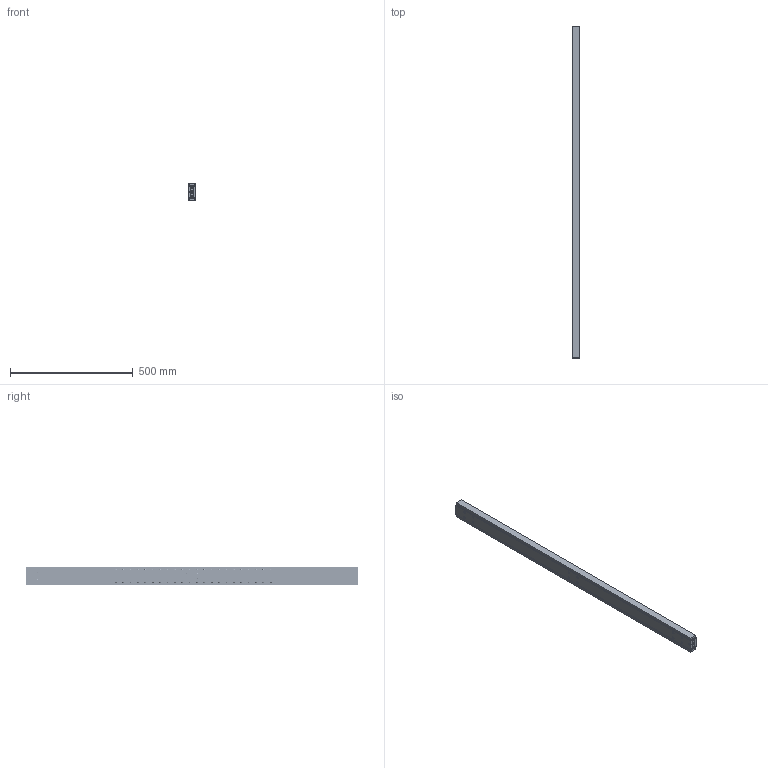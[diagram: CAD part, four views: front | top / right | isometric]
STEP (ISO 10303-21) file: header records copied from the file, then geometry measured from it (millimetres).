
FILE_DESCRIPTION(/* description */ (''),/* implementation_level */ '2;1');
FILE_NAME(/* name */ 'D:\Zeichnungen Schienen Komplett\MX-DTP70\MX-DTP70.135\MX-DTP70.135_eingefahren.step',/* time_stamp */ '2022-08-30T10:20:48+02:00',/* author */ ('zmile'),/* organization */ (''),/* preprocessor_version */ 'ST-DEVELOPER v16.13',/* originating_system */ 'AutoCAD Mechanical',/* authorisation */ '');
FILE_SCHEMA (('AUTOMOTIVE_DESIGN { 1 0 10303 214 3 1 1 }'));
Products named in the file (1): Product
Bounding box: 32 x 1350 x 70 mm (x, y, z)
Volume: 2398947.8 mm3; surface area: 854658.9 mm2
Topology: 95 solids, 95 shells, 394 faces, 1120 edges, 744 vertices
Faces by surface type: cylinder 128, sphere 88, plane 86, bspline 86, torus 6
Full cylindrical faces by diameter (mm): 9 x88, 13 x2
Entity records: 196410 total; most frequent: CARTESIAN_POINT 187320, ORIENTED_EDGE 1692, DIRECTION 1542, EDGE_CURVE 846, VERTEX_POINT 742, EDGE_LOOP 722, AXIS2_PLACEMENT_3D 665, FACE_OUTER_BOUND 394
